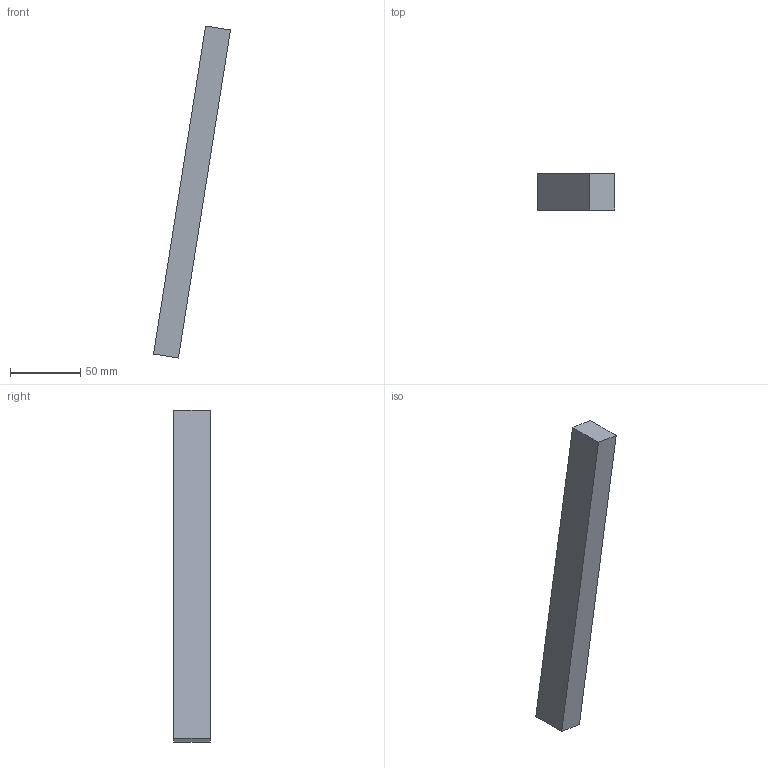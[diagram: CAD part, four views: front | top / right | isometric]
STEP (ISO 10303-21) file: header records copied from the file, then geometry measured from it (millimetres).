
FILE_DESCRIPTION(('Open CASCADE Model'),'2;1');
FILE_NAME('Open CASCADE Shape Model','2026-09-19T23:46:39',('Author'),( 'Open CASCADE'),'Open CASCADE STEP processor 7.9','Open CASCADE 7.9' ,'Unknown');
FILE_SCHEMA(('AUTOMOTIVE_DESIGN { 1 0 10303 214 1 1 1 1 }'));
Length unit declared in the file: millimetre
Products named in the file (1): Open CASCADE STEP translator 7.9 37
Bounding box: 54.78 x 26 x 235.82 mm (x, y, z)
Volume: 110410.3 mm3; surface area: 21696.9 mm2
Topology: 1 solids, 1 shells, 6 faces, 12 edges, 8 vertices
Faces by surface type: plane 6
Entity records: 322 total; most frequent: CARTESIAN_POINT 51, DIRECTION 50, LINE 36, VECTOR 36, ORIENTED_EDGE 24, PCURVE 24, DEFINITIONAL_REPRESENTATION 24, EDGE_CURVE 12
